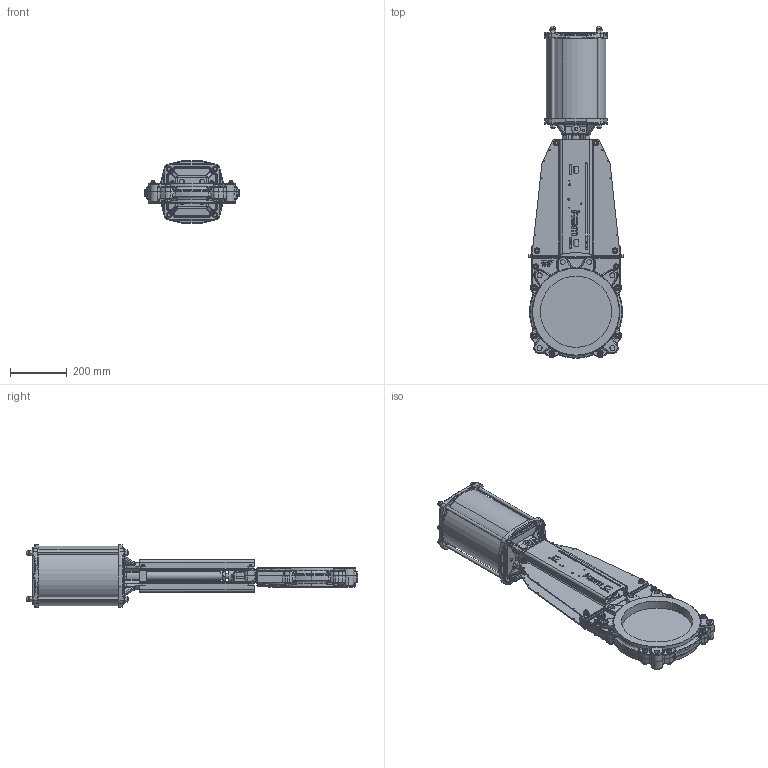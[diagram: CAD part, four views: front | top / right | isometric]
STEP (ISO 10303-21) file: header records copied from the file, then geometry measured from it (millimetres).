
FILE_DESCRIPTION (( 'STEP AP214' ), '1' );
FILE_NAME ('VSC DN 0250.STEP', '2015-09-23T11:10:52', ( 'admin' ), ( 'Hewlett-Packard Company' ), 'SwSTEP 2.0', 'SolidWorks 2013', '' );
FILE_SCHEMA (( 'AUTOMOTIVE_DESIGN' ));
Length unit declared in the file: millimetre
Products named in the file (1): VSC DN 0250
Bounding box: 332 x 1166.57 x 220 mm (x, y, z)
Volume: 8804906 mm3; surface area: 1772410.7 mm2
Topology: 79 solids, 83 shells, 4221 faces, 10077 edges, 5918 vertices
Faces by surface type: plane 1261, cylinder 1051, bspline 855, cone 774, torus 216, sphere 64
Entity records: 200112 total; most frequent: CARTESIAN_POINT 62513, ORIENTED_EDGE 19726, DIRECTION 17626, EDGE_CURVE 9863, AXIS2_PLACEMENT_3D 7047, VERTEX_POINT 5910, EDGE_LOOP 4591, UNCERTAINTY_MEASURE_WITH_UNIT 4302
